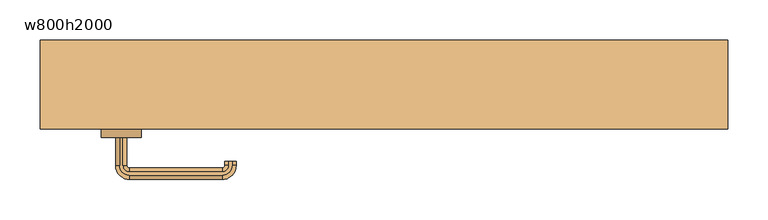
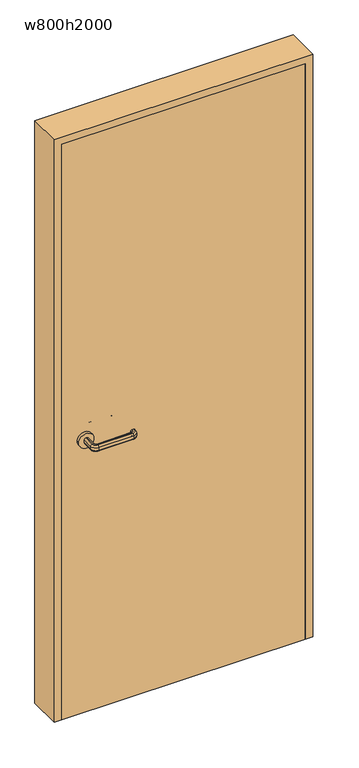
"""IFC4 building model written with IfcOpenShell, lengths in millimetres: door geometry, 片開き : w800h2000."""

from ifc_helpers import new_model, si_unit, point, frame, frame_2d, origin, origin_with_axes, place, context, project, spatial, polyline, circle_curve, ellipse_curve, trimmed, segment, composite_curve, outline, extrude, source, transform, mapped, element, save
from ifc_brep_helpers import plane_surface, cylinder_surface, revolved_surface, advanced_brep


def w800h2000_55112f04(model_context):
    return source(origin(), model_context, "Body", "SolidModel", [
        advanced_brep(
        [(-327.0, -65.0, 960.0), (-323.0, -65.0, 960.0), (-318.0, -65.0, 955.0), (-318.0, -65.0, 945.0477623), (-323.0, -65.0, 940.0477623), (-327.0, -65.0, 940.0477623), (-332.0, -65.0, 945.0477623), (-332.0, -65.0, 955.0), (-332.0, -100.0, 955.0), (-327.0, -100.0, 960.0), (-332.0, -100.0, 945.0477623), (-327.0, -100.0, 940.0477623), (-323.0, -100.0, 940.0477623), (-315.0, -108.0, 940.0477623), (-200.0, -108.0, 940.0477623), (-192.0, -100.0, 940.0477623), (-192.0, -95.0, 940.0477623), (-188.0, -95.0, 940.0477623), (-188.0, -100.0, 940.0477623), (-200.0, -112.0, 940.0477623), (-315.0, -112.0, 940.0477623), (-318.0, -100.0, 945.0477623), (-318.0, -100.0, 955.0), (-323.0, -100.0, 960.0), (-315.0, -112.0, 960.0), (-200.0, -112.0, 960.0), (-188.0, -100.0, 960.0), (-188.0, -95.0, 960.0), (-192.0, -95.0, 960.0), (-192.0, -100.0, 960.0), (-200.0, -108.0, 960.0), (-315.0, -108.0, 960.0), (-315.0, -117.0, 955.0), (-315.0, -117.0, 945.0477623), (-315.0, -103.0, 945.0477623), (-315.0, -103.0, 955.0), (-200.0, -117.0, 955.0), (-200.0, -117.0, 945.0477623), (-200.0, -103.0, 945.0477623), (-200.0, -103.0, 955.0), (-183.0, -100.0, 955.0), (-183.0, -100.0, 945.0477623), (-197.0, -100.0, 945.0477623), (-197.0, -100.0, 955.0), (-183.0, -95.0, 955.0), (-183.0, -95.0, 945.0477623), (-197.0, -95.0, 945.0477623), (-197.0, -95.0, 955.0)],
        [
            (0, 1),
            (1, 2, circle_curve(frame((-323.0, -65.0, 955.0), z_axis=(0.0, 1.0, 0.0), x_axis=(-1.0, 0.0, 0.0)), 5.0)),
            (2, 3),
            (3, 4, circle_curve(frame((-323.0, -65.0, 945.0477623), z_axis=(0.0, 1.0, 0.0), x_axis=(-1.0, 0.0, 0.0)), 5.0)),
            (4, 5),
            (5, 6, circle_curve(frame((-327.0, -65.0, 945.0477623), z_axis=(0.0, 1.0, 0.0), x_axis=(-1.0, 0.0, 0.0)), 5.0)),
            (6, 7),
            (7, 0, circle_curve(frame((-327.0, -65.0, 955.0), z_axis=(0.0, 1.0, 0.0), x_axis=(-1.0, 0.0, 0.0)), 5.0)),
            (7, 8),
            (8, 9, circle_curve(frame((-327.0, -100.0, 955.0), z_axis=(0.0, 1.0, 0.0), x_axis=(-1.0, 0.0, 0.0)), 5.0)),
            (9, 0),
            (6, 10),
            (10, 8),
            (5, 11),
            (11, 10, circle_curve(frame((-327.0, -100.0, 945.0477623), z_axis=(0.0, 1.0, 0.0), x_axis=(-1.0, 0.0, 0.0)), 5.0)),
            (4, 12),
            (12, 13, circle_curve(frame((-315.0, -100.0, 940.0477623), z_axis=(0.0, 0.0, 1.0), x_axis=(-1.0, 0.0, 0.0)), 8.0)),
            (13, 14),
            (14, 15, circle_curve(frame((-200.0, -100.0, 940.0477623), z_axis=(0.0, 0.0, 1.0), x_axis=(0.0, -1.0, 0.0)), 8.0)),
            (15, 16),
            (16, 17),
            (17, 18),
            (18, 19, circle_curve(frame((-200.0, -100.0, 940.0477623), z_axis=(0.0, 0.0, -1.0), x_axis=(0.0, -1.0, 0.0)), 12.0)),
            (19, 20),
            (20, 11, circle_curve(frame((-315.0, -100.0, 940.0477623), z_axis=(0.0, 0.0, -1.0), x_axis=(-1.0, 0.0, 0.0)), 12.0)),
            (3, 21),
            (21, 12, circle_curve(frame((-323.0, -100.0, 945.0477623), z_axis=(0.0, 1.0, 0.0), x_axis=(-1.0, 0.0, 0.0)), 5.0)),
            (2, 22),
            (22, 21),
            (1, 23),
            (23, 22, circle_curve(frame((-323.0, -100.0, 955.0), z_axis=(0.0, 1.0, 0.0), x_axis=(-1.0, 0.0, 0.0)), 5.0)),
            (9, 24, circle_curve(frame((-315.0, -100.0, 960.0), z_axis=(0.0, 0.0, 1.0), x_axis=(-1.0, 0.0, 0.0)), 12.0)),
            (24, 25),
            (25, 26, circle_curve(frame((-200.0, -100.0, 960.0), z_axis=(0.0, 0.0, 1.0), x_axis=(0.0, -1.0, 0.0)), 12.0)),
            (26, 27),
            (27, 28),
            (28, 29),
            (29, 30, circle_curve(frame((-200.0, -100.0, 960.0), z_axis=(0.0, 0.0, -1.0), x_axis=(0.0, -1.0, 0.0)), 8.0)),
            (30, 31),
            (31, 23, circle_curve(frame((-315.0, -100.0, 960.0), z_axis=(0.0, 0.0, -1.0), x_axis=(-1.0, 0.0, 0.0)), 8.0)),
            (32, 24, circle_curve(frame((-315.0, -112.0, 955.0), z_axis=(-1.0, 0.0, 0.0), x_axis=(0.0, -1.0, 0.0)), 5.0)),
            (8, 32, circle_curve(frame((-315.0, -100.0, 955.0), z_axis=(0.0, 0.0, 1.0), x_axis=(-1.0, 0.0, 0.0)), 17.0)),
            (33, 32),
            (10, 33, circle_curve(frame((-315.0, -100.0, 945.0477623), z_axis=(0.0, 0.0, 1.0), x_axis=(-1.0, 0.0, 0.0)), 17.0)),
            (20, 33, circle_curve(frame((-315.0, -112.0, 945.0477623), z_axis=(-1.0, 0.0, 0.0), x_axis=(0.0, -1.0, 0.0)), 5.0)),
            (34, 13, circle_curve(frame((-315.0, -108.0, 945.0477623), z_axis=(-1.0, 0.0, 0.0), x_axis=(0.0, -1.0, 0.0)), 5.0)),
            (21, 34, circle_curve(frame((-315.0, -100.0, 945.0477623), z_axis=(0.0, 0.0, 1.0), x_axis=(-1.0, 0.0, 0.0)), 3.0)),
            (35, 34),
            (22, 35, circle_curve(frame((-315.0, -100.0, 955.0), z_axis=(0.0, 0.0, 1.0), x_axis=(-1.0, 0.0, 0.0)), 3.0)),
            (31, 35, circle_curve(frame((-315.0, -108.0, 955.0), z_axis=(-1.0, 0.0, 0.0), x_axis=(0.0, -1.0, 0.0)), 5.0)),
            (32, 36),
            (36, 25, circle_curve(frame((-200.0, -112.0, 955.0), z_axis=(-1.0, 0.0, 0.0), x_axis=(0.0, -1.0, 0.0)), 5.0)),
            (33, 37),
            (37, 36),
            (19, 37, circle_curve(frame((-200.0, -112.0, 945.0477623), z_axis=(-1.0, 0.0, 0.0), x_axis=(0.0, -1.0, 0.0)), 5.0)),
            (34, 38),
            (38, 14, circle_curve(frame((-200.0, -108.0, 945.0477623), z_axis=(-1.0, 0.0, 0.0), x_axis=(0.0, -1.0, 0.0)), 5.0)),
            (35, 39),
            (39, 38),
            (30, 39, circle_curve(frame((-200.0, -108.0, 955.0), z_axis=(-1.0, 0.0, 0.0), x_axis=(0.0, -1.0, 0.0)), 5.0)),
            (40, 26, circle_curve(frame((-188.0, -100.0, 955.0), z_axis=(0.0, -1.0, 0.0), x_axis=(1.0, 0.0, 0.0)), 5.0)),
            (36, 40, circle_curve(frame((-200.0, -100.0, 955.0), z_axis=(0.0, 0.0, 1.0), x_axis=(0.0, -1.0, 0.0)), 17.0)),
            (41, 40),
            (37, 41, circle_curve(frame((-200.0, -100.0, 945.0477623), z_axis=(0.0, 0.0, 1.0), x_axis=(0.0, -1.0, 0.0)), 17.0)),
            (18, 41, circle_curve(frame((-188.0, -100.0, 945.0477623), z_axis=(0.0, -1.0, 0.0), x_axis=(1.0, 0.0, 0.0)), 5.0)),
            (42, 15, circle_curve(frame((-192.0, -100.0, 945.0477623), z_axis=(0.0, -1.0, 0.0), x_axis=(1.0, 0.0, 0.0)), 5.0)),
            (38, 42, circle_curve(frame((-200.0, -100.0, 945.0477623), z_axis=(0.0, 0.0, 1.0), x_axis=(0.0, -1.0, 0.0)), 3.0)),
            (43, 42),
            (39, 43, circle_curve(frame((-200.0, -100.0, 955.0), z_axis=(0.0, 0.0, 1.0), x_axis=(0.0, -1.0, 0.0)), 3.0)),
            (29, 43, circle_curve(frame((-192.0, -100.0, 955.0), z_axis=(0.0, -1.0, 0.0), x_axis=(1.0, 0.0, 0.0)), 5.0)),
            (27, 44, circle_curve(frame((-188.0, -95.0, 955.0), z_axis=(0.0, 1.0, 0.0), x_axis=(1.0, 0.0, 0.0)), 5.0)),
            (44, 45),
            (45, 17, circle_curve(frame((-188.0, -95.0, 945.0477623), z_axis=(0.0, 1.0, 0.0), x_axis=(1.0, 0.0, 0.0)), 5.0)),
            (16, 46, circle_curve(frame((-192.0, -95.0, 945.0477623), z_axis=(0.0, 1.0, 0.0), x_axis=(1.0, 0.0, 0.0)), 5.0)),
            (46, 47),
            (47, 28, circle_curve(frame((-192.0, -95.0, 955.0), z_axis=(0.0, 1.0, 0.0), x_axis=(1.0, 0.0, 0.0)), 5.0)),
            (40, 44),
            (41, 45),
            (42, 46),
            (43, 47),
        ],
        [
            plane_surface(frame((-335.198039, -65.0, 950.0), z_axis=(0.0, 1.0, 0.0), x_axis=(0.0, 0.0, 1.0))),
            cylinder_surface(frame((-327.0, -65.0, 955.0), z_axis=(0.0, 1.0, 0.0), x_axis=(-1.0, 0.0, 0.0)), 5.0),
            plane_surface(frame((-332.0, -65.0, 955.0), z_axis=(-1.0, 0.0, 0.0), x_axis=(0.0, -1.0, 0.0))),
            cylinder_surface(frame((-327.0, -65.0, 945.0477623), z_axis=(0.0, 1.0, 0.0), x_axis=(-1.0, 0.0, 0.0)), 5.0),
            plane_surface(frame((-327.0, -65.0, 940.0477623), z_axis=(0.0, 0.0, -1.0), x_axis=(0.0, -1.0, 0.0))),
            cylinder_surface(frame((-323.0, -65.0, 945.0477623), z_axis=(0.0, 1.0, 0.0), x_axis=(-1.0, 0.0, 0.0)), 5.0),
            plane_surface(frame((-318.0, -65.0, 945.0477623), z_axis=(1.0, 0.0, 0.0), x_axis=(0.0, -1.0, 0.0))),
            cylinder_surface(frame((-323.0, -65.0, 955.0), z_axis=(0.0, 1.0, 0.0), x_axis=(-1.0, 0.0, 0.0)), 5.0),
            plane_surface(frame((-323.0, -65.0, 960.0), z_axis=(0.0, 0.0, 1.0), x_axis=(0.0, -1.0, 0.0))),
            revolved_surface(trimmed(ellipse_curve(frame((-327.0, -100.0, 955.0), z_axis=(0.0, -1.0, 0.0), x_axis=(-1.0, 0.0, 0.0)), 5.0, 5.0), [point((-327.0, -100.0, 960.0))], [point((-332.0, -100.0, 955.0))], True, "CARTESIAN"), (-315.0, -100.0, 950.0), (0.0, 0.0, -1.0)),
            cylinder_surface(frame((-315.0, -100.0, 950.0), z_axis=(0.0, 0.0, -1.0), x_axis=(-1.0, 0.0, 0.0)), 17.0),
            revolved_surface(trimmed(ellipse_curve(frame((-327.0, -100.0, 945.0477623), z_axis=(0.0, -1.0, 0.0), x_axis=(-1.0, 0.0, 0.0)), 5.0, 5.0), [point((-332.0, -100.0, 945.0477623))], [point((-327.0, -100.0, 940.0477623))], True, "CARTESIAN"), (-315.0, -100.0, 950.0), (0.0, 0.0, -1.0)),
            revolved_surface(trimmed(ellipse_curve(frame((-323.0, -100.0, 945.0477623), z_axis=(0.0, -1.0, 0.0), x_axis=(-1.0, 0.0, 0.0)), 5.0, 5.0), [point((-323.0, -100.0, 940.0477623))], [point((-318.0, -100.0, 945.0477623))], True, "CARTESIAN"), (-315.0, -100.0, 950.0), (0.0, 0.0, -1.0)),
            revolved_surface(polyline([(-318.0, -100.0, 945.0477623), (-318.0, -100.0, 955.0)]), (-315.0, -100.0, 950.0), (0.0, 0.0, -1.0)),
            revolved_surface(trimmed(ellipse_curve(frame((-323.0, -100.0, 955.0), z_axis=(0.0, -1.0, 0.0), x_axis=(-1.0, 0.0, 0.0)), 5.0, 5.0), [point((-318.0, -100.0, 955.0))], [point((-323.0, -100.0, 960.0))], True, "CARTESIAN"), (-315.0, -100.0, 950.0), (0.0, 0.0, -1.0)),
            cylinder_surface(frame((-315.0, -112.0, 955.0), z_axis=(-1.0, 0.0, 0.0), x_axis=(0.0, -1.0, 0.0)), 5.0),
            plane_surface(frame((-315.0, -117.0, 955.0), z_axis=(0.0, -1.0, 0.0), x_axis=(1.0, 0.0, 0.0))),
            cylinder_surface(frame((-315.0, -112.0, 945.0477623), z_axis=(-1.0, 0.0, 0.0), x_axis=(0.0, -1.0, 0.0)), 5.0),
            cylinder_surface(frame((-315.0, -108.0, 945.0477623), z_axis=(-1.0, 0.0, 0.0), x_axis=(0.0, -1.0, 0.0)), 5.0),
            plane_surface(frame((-315.0, -103.0, 945.0477623), z_axis=(0.0, 1.0, 0.0), x_axis=(1.0, 0.0, 0.0))),
            cylinder_surface(frame((-315.0, -108.0, 955.0), z_axis=(-1.0, 0.0, 0.0), x_axis=(0.0, -1.0, 0.0)), 5.0),
            revolved_surface(trimmed(ellipse_curve(frame((-200.0, -112.0, 955.0), z_axis=(1.0, 0.0, 0.0), x_axis=(0.0, -1.0, 0.0)), 5.0, 5.0), [point((-200.0, -112.0, 960.0))], [point((-200.0, -117.0, 955.0))], True, "CARTESIAN"), (-200.0, -100.0, 950.0), (0.0, 0.0, -1.0)),
            cylinder_surface(frame((-200.0, -100.0, 950.0), z_axis=(0.0, 0.0, -1.0), x_axis=(0.0, -1.0, 0.0)), 17.0),
            revolved_surface(trimmed(ellipse_curve(frame((-200.0, -112.0, 945.0477623), z_axis=(1.0, 0.0, 0.0), x_axis=(0.0, -1.0, 0.0)), 5.0, 5.0), [point((-200.0, -117.0, 945.0477623))], [point((-200.0, -112.0, 940.0477623))], True, "CARTESIAN"), (-200.0, -100.0, 950.0), (0.0, 0.0, -1.0)),
            revolved_surface(trimmed(ellipse_curve(frame((-200.0, -108.0, 945.0477623), z_axis=(1.0, 0.0, 0.0), x_axis=(0.0, -1.0, 0.0)), 5.0, 5.0), [point((-200.0, -108.0, 940.0477623))], [point((-200.0, -103.0, 945.0477623))], True, "CARTESIAN"), (-200.0, -100.0, 950.0), (0.0, 0.0, -1.0)),
            revolved_surface(polyline([(-200.0, -103.0, 945.0477623), (-200.0, -103.0, 955.0)]), (-200.0, -100.0, 950.0), (0.0, 0.0, -1.0)),
            revolved_surface(trimmed(ellipse_curve(frame((-200.0, -108.0, 955.0), z_axis=(1.0, 0.0, 0.0), x_axis=(0.0, -1.0, 0.0)), 5.0, 5.0), [point((-200.0, -103.0, 955.0))], [point((-200.0, -108.0, 960.0))], True, "CARTESIAN"), (-200.0, -100.0, 950.0), (0.0, 0.0, -1.0)),
            plane_surface(frame((-200.198039, -95.0, 950.0), z_axis=(0.0, 1.0, 0.0), x_axis=(0.0, 0.0, -1.0))),
            cylinder_surface(frame((-188.0, -100.0, 955.0), z_axis=(0.0, -1.0, 0.0), x_axis=(1.0, 0.0, 0.0)), 5.0),
            plane_surface(frame((-183.0, -100.0, 955.0), z_axis=(1.0, 0.0, 0.0), x_axis=(0.0, 1.0, 0.0))),
            cylinder_surface(frame((-188.0, -100.0, 945.0477623), z_axis=(0.0, -1.0, 0.0), x_axis=(1.0, 0.0, 0.0)), 5.0),
            cylinder_surface(frame((-192.0, -100.0, 945.0477623), z_axis=(0.0, -1.0, 0.0), x_axis=(1.0, 0.0, 0.0)), 5.0),
            plane_surface(frame((-197.0, -100.0, 945.0477623), z_axis=(-1.0, 0.0, 0.0), x_axis=(0.0, 1.0, 0.0))),
            cylinder_surface(frame((-192.0, -100.0, 955.0), z_axis=(0.0, -1.0, 0.0), x_axis=(1.0, 0.0, 0.0)), 5.0),
        ],
        [
            (0, [[1, 2, 3, 4, 5, 6, 7, 8]]),
            (1, [[9, 10, 11, -8]]),
            (2, [[12, 13, -9, -7]]),
            (3, [[14, 15, -12, -6]]),
            (4, [[16, 17, 18, 19, 20, 21, 22, 23, 24, 25, -14, -5]]),
            (5, [[26, 27, -16, -4]]),
            (6, [[28, 29, -26, -3]]),
            (7, [[30, 31, -28, -2]]),
            (8, [[-11, 32, 33, 34, 35, 36, 37, 38, 39, 40, -30, -1]]),
            (9, [[41, -32, -10, 42]]),
            (10, [[43, -42, -13, 44]]),
            (11, [[45, -44, -15, -25]]),
            (12, [[46, -17, -27, 47]]),
            (13, [[48, -47, -29, 49]]),
            (14, [[50, -49, -31, -40]]),
            (15, [[51, 52, -33, -41]]),
            (16, [[53, 54, -51, -43]]),
            (17, [[-24, 55, -53, -45]]),
            (18, [[56, 57, -18, -46]]),
            (19, [[58, 59, -56, -48]]),
            (20, [[-39, 60, -58, -50]]),
            (21, [[61, -34, -52, 62]]),
            (22, [[63, -62, -54, 64]]),
            (23, [[65, -64, -55, -23]]),
            (24, [[66, -19, -57, 67]]),
            (25, [[68, -67, -59, 69]]),
            (26, [[70, -69, -60, -38]]),
            (27, [[71, 72, 73, -21, 74, 75, 76, -36]]),
            (28, [[77, -71, -35, -61]]),
            (29, [[78, -72, -77, -63]]),
            (30, [[-22, -73, -78, -65]]),
            (31, [[79, -74, -20, -66]]),
            (32, [[80, -75, -79, -68]]),
            (33, [[-37, -76, -80, -70]]),
        ],
    ),
        advanced_brep(
        [(-323.0, -20.0, 940.0), (-318.0, -20.0, 945.0), (-318.0, -20.0, 955.0), (-323.0, -20.0, 960.0), (-327.0, -20.0, 960.0), (-332.0, -20.0, 955.0), (-332.0, -20.0, 945.0), (-327.0, -20.0, 940.0), (-327.0, 15.0, 940.0), (-315.0, 27.0, 940.0), (-200.0, 27.0, 940.0), (-188.0, 15.0, 940.0), (-188.0, 10.0, 940.0), (-192.0, 10.0, 940.0), (-192.0, 15.0, 940.0), (-200.0, 23.0, 940.0), (-315.0, 23.0, 940.0), (-323.0, 15.0, 940.0), (-332.0, 15.0, 945.0), (-332.0, 15.0, 955.0), (-327.0, 15.0, 960.0), (-323.0, 15.0, 960.0), (-315.0, 23.0, 960.0), (-200.0, 23.0, 960.0), (-192.0, 15.0, 960.0), (-192.0, 10.0, 960.0), (-188.0, 10.0, 960.0), (-188.0, 15.0, 960.0), (-200.0, 27.0, 960.0), (-315.0, 27.0, 960.0), (-318.0, 15.0, 955.0), (-318.0, 15.0, 945.0), (-315.0, 32.0, 945.0), (-315.0, 32.0, 955.0), (-315.0, 18.0, 955.0), (-315.0, 18.0, 945.0), (-200.0, 32.0, 945.0), (-200.0, 32.0, 955.0), (-200.0, 18.0, 955.0), (-200.0, 18.0, 945.0), (-183.0, 15.0, 945.0), (-183.0, 15.0, 955.0), (-197.0, 15.0, 955.0), (-197.0, 15.0, 945.0), (-183.0, 10.0, 945.0), (-183.0, 10.0, 955.0), (-197.0, 10.0, 955.0), (-197.0, 10.0, 945.0)],
        [
            (0, 1, circle_curve(frame((-323.0, -20.0, 945.0), z_axis=(0.0, -1.0, 0.0), x_axis=(1.0, 0.0, 0.0)), 5.0)),
            (1, 2),
            (2, 3, circle_curve(frame((-323.0, -20.0, 955.0), z_axis=(0.0, -1.0, 0.0), x_axis=(1.0, 0.0, 0.0)), 5.0)),
            (3, 4),
            (4, 5, circle_curve(frame((-327.0, -20.0, 955.0), z_axis=(0.0, -1.0, 0.0), x_axis=(1.0, 0.0, 0.0)), 5.0)),
            (5, 6),
            (6, 7, circle_curve(frame((-327.0, -20.0, 945.0), z_axis=(0.0, -1.0, 0.0), x_axis=(1.0, 0.0, 0.0)), 5.0)),
            (7, 0),
            (7, 8),
            (8, 9, circle_curve(frame((-315.0, 15.0, 940.0), z_axis=(0.0, 0.0, -1.0), x_axis=(-1.0, 0.0, 0.0)), 12.0)),
            (9, 10),
            (10, 11, circle_curve(frame((-200.0, 15.0, 940.0), z_axis=(0.0, 0.0, -1.0), x_axis=(0.0, 1.0, 0.0)), 12.0)),
            (11, 12),
            (12, 13),
            (13, 14),
            (14, 15, circle_curve(frame((-200.0, 15.0, 940.0), z_axis=(0.0, 0.0, 1.0), x_axis=(0.0, 1.0, 0.0)), 8.0)),
            (15, 16),
            (16, 17, circle_curve(frame((-315.0, 15.0, 940.0), z_axis=(0.0, 0.0, 1.0), x_axis=(-1.0, 0.0, 0.0)), 8.0)),
            (17, 0),
            (6, 18),
            (18, 8, circle_curve(frame((-327.0, 15.0, 945.0), z_axis=(0.0, -1.0, 0.0), x_axis=(1.0, 0.0, 0.0)), 5.0)),
            (5, 19),
            (19, 18),
            (4, 20),
            (20, 19, circle_curve(frame((-327.0, 15.0, 955.0), z_axis=(0.0, -1.0, 0.0), x_axis=(1.0, 0.0, 0.0)), 5.0)),
            (3, 21),
            (21, 22, circle_curve(frame((-315.0, 15.0, 960.0), z_axis=(0.0, 0.0, -1.0), x_axis=(-1.0, 0.0, 0.0)), 8.0)),
            (22, 23),
            (23, 24, circle_curve(frame((-200.0, 15.0, 960.0), z_axis=(0.0, 0.0, -1.0), x_axis=(0.0, 1.0, 0.0)), 8.0)),
            (24, 25),
            (25, 26),
            (26, 27),
            (27, 28, circle_curve(frame((-200.0, 15.0, 960.0), z_axis=(0.0, 0.0, 1.0), x_axis=(0.0, 1.0, 0.0)), 12.0)),
            (28, 29),
            (29, 20, circle_curve(frame((-315.0, 15.0, 960.0), z_axis=(0.0, 0.0, 1.0), x_axis=(-1.0, 0.0, 0.0)), 12.0)),
            (2, 30),
            (30, 21, circle_curve(frame((-323.0, 15.0, 955.0), z_axis=(0.0, -1.0, 0.0), x_axis=(1.0, 0.0, 0.0)), 5.0)),
            (1, 31),
            (31, 30),
            (17, 31, circle_curve(frame((-323.0, 15.0, 945.0), z_axis=(0.0, -1.0, 0.0), x_axis=(1.0, 0.0, 0.0)), 5.0)),
            (32, 9, circle_curve(frame((-315.0, 27.0, 945.0), z_axis=(-1.0, 0.0, 0.0), x_axis=(0.0, -1.0, 0.0)), 5.0)),
            (18, 32, circle_curve(frame((-315.0, 15.0, 945.0), z_axis=(0.0, 0.0, -1.0), x_axis=(-1.0, 0.0, 0.0)), 17.0)),
            (33, 32),
            (19, 33, circle_curve(frame((-315.0, 15.0, 955.0), z_axis=(0.0, 0.0, -1.0), x_axis=(-1.0, 0.0, 0.0)), 17.0)),
            (29, 33, circle_curve(frame((-315.0, 27.0, 955.0), z_axis=(-1.0, 0.0, 0.0), x_axis=(0.0, -1.0, 0.0)), 5.0)),
            (34, 22, circle_curve(frame((-315.0, 23.0, 955.0), z_axis=(-1.0, 0.0, 0.0), x_axis=(0.0, -1.0, 0.0)), 5.0)),
            (30, 34, circle_curve(frame((-315.0, 15.0, 955.0), z_axis=(0.0, 0.0, -1.0), x_axis=(-1.0, 0.0, 0.0)), 3.0)),
            (35, 34),
            (31, 35, circle_curve(frame((-315.0, 15.0, 945.0), z_axis=(0.0, 0.0, -1.0), x_axis=(-1.0, 0.0, 0.0)), 3.0)),
            (16, 35, circle_curve(frame((-315.0, 23.0, 945.0), z_axis=(-1.0, 0.0, 0.0), x_axis=(0.0, -1.0, 0.0)), 5.0)),
            (32, 36),
            (36, 10, circle_curve(frame((-200.0, 27.0, 945.0), z_axis=(-1.0, 0.0, 0.0), x_axis=(0.0, -1.0, 0.0)), 5.0)),
            (33, 37),
            (37, 36),
            (28, 37, circle_curve(frame((-200.0, 27.0, 955.0), z_axis=(-1.0, 0.0, 0.0), x_axis=(0.0, -1.0, 0.0)), 5.0)),
            (34, 38),
            (38, 23, circle_curve(frame((-200.0, 23.0, 955.0), z_axis=(-1.0, 0.0, 0.0), x_axis=(0.0, -1.0, 0.0)), 5.0)),
            (35, 39),
            (39, 38),
            (15, 39, circle_curve(frame((-200.0, 23.0, 945.0), z_axis=(-1.0, 0.0, 0.0), x_axis=(0.0, -1.0, 0.0)), 5.0)),
            (40, 11, circle_curve(frame((-188.0, 15.0, 945.0), z_axis=(0.0, 1.0, 0.0), x_axis=(-1.0, 0.0, 0.0)), 5.0)),
            (36, 40, circle_curve(frame((-200.0, 15.0, 945.0), z_axis=(0.0, 0.0, -1.0), x_axis=(0.0, 1.0, 0.0)), 17.0)),
            (41, 40),
            (37, 41, circle_curve(frame((-200.0, 15.0, 955.0), z_axis=(0.0, 0.0, -1.0), x_axis=(0.0, 1.0, 0.0)), 17.0)),
            (27, 41, circle_curve(frame((-188.0, 15.0, 955.0), z_axis=(0.0, 1.0, 0.0), x_axis=(-1.0, 0.0, 0.0)), 5.0)),
            (42, 24, circle_curve(frame((-192.0, 15.0, 955.0), z_axis=(0.0, 1.0, 0.0), x_axis=(-1.0, 0.0, 0.0)), 5.0)),
            (38, 42, circle_curve(frame((-200.0, 15.0, 955.0), z_axis=(0.0, 0.0, -1.0), x_axis=(0.0, 1.0, 0.0)), 3.0)),
            (43, 42),
            (39, 43, circle_curve(frame((-200.0, 15.0, 945.0), z_axis=(0.0, 0.0, -1.0), x_axis=(0.0, 1.0, 0.0)), 3.0)),
            (14, 43, circle_curve(frame((-192.0, 15.0, 945.0), z_axis=(0.0, 1.0, 0.0), x_axis=(-1.0, 0.0, 0.0)), 5.0)),
            (12, 44, circle_curve(frame((-188.0, 10.0, 945.0), z_axis=(0.0, -1.0, 0.0), x_axis=(-1.0, 0.0, 0.0)), 5.0)),
            (44, 45),
            (45, 26, circle_curve(frame((-188.0, 10.0, 955.0), z_axis=(0.0, -1.0, 0.0), x_axis=(-1.0, 0.0, 0.0)), 5.0)),
            (25, 46, circle_curve(frame((-192.0, 10.0, 955.0), z_axis=(0.0, -1.0, 0.0), x_axis=(-1.0, 0.0, 0.0)), 5.0)),
            (46, 47),
            (47, 13, circle_curve(frame((-192.0, 10.0, 945.0), z_axis=(0.0, -1.0, 0.0), x_axis=(-1.0, 0.0, 0.0)), 5.0)),
            (40, 44),
            (41, 45),
            (42, 46),
            (43, 47),
        ],
        [
            plane_surface(frame((-335.198039, -20.0, 950.0), z_axis=(0.0, -1.0, 0.0), x_axis=(0.0, 0.0, -1.0))),
            plane_surface(frame((-323.0, -20.0, 940.0), z_axis=(0.0, 0.0, -1.0), x_axis=(0.0, 1.0, 0.0))),
            cylinder_surface(frame((-327.0, -20.0, 945.0), z_axis=(0.0, -1.0, 0.0), x_axis=(1.0, 0.0, 0.0)), 5.0),
            plane_surface(frame((-332.0, -20.0, 945.0), z_axis=(-1.0, 0.0, 0.0), x_axis=(0.0, 1.0, 0.0))),
            cylinder_surface(frame((-327.0, -20.0, 955.0), z_axis=(0.0, -1.0, 0.0), x_axis=(1.0, 0.0, 0.0)), 5.0),
            plane_surface(frame((-327.0, -20.0, 960.0), z_axis=(0.0, 0.0, 1.0), x_axis=(0.0, 1.0, 0.0))),
            cylinder_surface(frame((-323.0, -20.0, 955.0), z_axis=(0.0, -1.0, 0.0), x_axis=(1.0, 0.0, 0.0)), 5.0),
            plane_surface(frame((-318.0, -20.0, 955.0), z_axis=(1.0, 0.0, 0.0), x_axis=(0.0, 1.0, 0.0))),
            cylinder_surface(frame((-323.0, -20.0, 945.0), z_axis=(0.0, -1.0, 0.0), x_axis=(1.0, 0.0, 0.0)), 5.0),
            revolved_surface(trimmed(ellipse_curve(frame((-327.0, 15.0, 945.0), z_axis=(0.0, 1.0, 0.0), x_axis=(1.0, 0.0, 0.0)), 5.0, 5.0), [point((-327.0, 15.0, 940.0))], [point((-332.0, 15.0, 945.0))], True, "CARTESIAN"), (-315.0, 15.0, 950.0), (0.0, 0.0, 1.0)),
            cylinder_surface(frame((-315.0, 15.0, 950.0), z_axis=(0.0, 0.0, 1.0), x_axis=(-1.0, 0.0, 0.0)), 17.0),
            revolved_surface(trimmed(ellipse_curve(frame((-327.0, 15.0, 955.0), z_axis=(0.0, 1.0, 0.0), x_axis=(1.0, 0.0, 0.0)), 5.0, 5.0), [point((-332.0, 15.0, 955.0))], [point((-327.0, 15.0, 960.0))], True, "CARTESIAN"), (-315.0, 15.0, 950.0), (0.0, 0.0, 1.0)),
            revolved_surface(trimmed(ellipse_curve(frame((-323.0, 15.0, 955.0), z_axis=(0.0, 1.0, 0.0), x_axis=(1.0, 0.0, 0.0)), 5.0, 5.0), [point((-323.0, 15.0, 960.0))], [point((-318.0, 15.0, 955.0))], True, "CARTESIAN"), (-315.0, 15.0, 950.0), (0.0, 0.0, 1.0)),
            revolved_surface(polyline([(-318.0, 15.0, 955.0), (-318.0, 15.0, 945.0)]), (-315.0, 15.0, 950.0), (0.0, 0.0, 1.0)),
            revolved_surface(trimmed(ellipse_curve(frame((-323.0, 15.0, 945.0), z_axis=(0.0, 1.0, 0.0), x_axis=(1.0, 0.0, 0.0)), 5.0, 5.0), [point((-318.0, 15.0, 945.0))], [point((-323.0, 15.0, 940.0))], True, "CARTESIAN"), (-315.0, 15.0, 950.0), (0.0, 0.0, 1.0)),
            cylinder_surface(frame((-315.0, 27.0, 945.0), z_axis=(-1.0, 0.0, 0.0), x_axis=(0.0, -1.0, 0.0)), 5.0),
            plane_surface(frame((-315.0, 32.0, 945.0), z_axis=(0.0, 1.0, 0.0), x_axis=(1.0, 0.0, 0.0))),
            cylinder_surface(frame((-315.0, 27.0, 955.0), z_axis=(-1.0, 0.0, 0.0), x_axis=(0.0, -1.0, 0.0)), 5.0),
            cylinder_surface(frame((-315.0, 23.0, 955.0), z_axis=(-1.0, 0.0, 0.0), x_axis=(0.0, -1.0, 0.0)), 5.0),
            plane_surface(frame((-315.0, 18.0, 955.0), z_axis=(0.0, -1.0, 0.0), x_axis=(1.0, 0.0, 0.0))),
            cylinder_surface(frame((-315.0, 23.0, 945.0), z_axis=(-1.0, 0.0, 0.0), x_axis=(0.0, -1.0, 0.0)), 5.0),
            revolved_surface(trimmed(ellipse_curve(frame((-200.0, 27.0, 945.0), z_axis=(1.0, 0.0, 0.0), x_axis=(0.0, -1.0, 0.0)), 5.0, 5.0), [point((-200.0, 27.0, 940.0))], [point((-200.0, 32.0, 945.0))], True, "CARTESIAN"), (-200.0, 15.0, 950.0), (0.0, 0.0, 1.0)),
            cylinder_surface(frame((-200.0, 15.0, 950.0), z_axis=(0.0, 0.0, 1.0), x_axis=(0.0, 1.0, 0.0)), 17.0),
            revolved_surface(trimmed(ellipse_curve(frame((-200.0, 27.0, 955.0), z_axis=(1.0, 0.0, 0.0), x_axis=(0.0, -1.0, 0.0)), 5.0, 5.0), [point((-200.0, 32.0, 955.0))], [point((-200.0, 27.0, 960.0))], True, "CARTESIAN"), (-200.0, 15.0, 950.0), (0.0, 0.0, 1.0)),
            revolved_surface(trimmed(ellipse_curve(frame((-200.0, 23.0, 955.0), z_axis=(1.0, 0.0, 0.0), x_axis=(0.0, -1.0, 0.0)), 5.0, 5.0), [point((-200.0, 23.0, 960.0))], [point((-200.0, 18.0, 955.0))], True, "CARTESIAN"), (-200.0, 15.0, 950.0), (0.0, 0.0, 1.0)),
            revolved_surface(polyline([(-200.0, 18.0, 955.0), (-200.0, 18.0, 945.0)]), (-200.0, 15.0, 950.0), (0.0, 0.0, 1.0)),
            revolved_surface(trimmed(ellipse_curve(frame((-200.0, 23.0, 945.0), z_axis=(1.0, 0.0, 0.0), x_axis=(0.0, -1.0, 0.0)), 5.0, 5.0), [point((-200.0, 18.0, 945.0))], [point((-200.0, 23.0, 940.0))], True, "CARTESIAN"), (-200.0, 15.0, 950.0), (0.0, 0.0, 1.0)),
            plane_surface(frame((-200.198039, 10.0, 950.0), z_axis=(0.0, -1.0, 0.0), x_axis=(0.0, 0.0, 1.0))),
            cylinder_surface(frame((-188.0, 15.0, 945.0), z_axis=(0.0, 1.0, 0.0), x_axis=(-1.0, 0.0, 0.0)), 5.0),
            plane_surface(frame((-183.0, 15.0, 945.0), z_axis=(1.0, 0.0, 0.0), x_axis=(0.0, -1.0, 0.0))),
            cylinder_surface(frame((-188.0, 15.0, 955.0), z_axis=(0.0, 1.0, 0.0), x_axis=(-1.0, 0.0, 0.0)), 5.0),
            cylinder_surface(frame((-192.0, 15.0, 955.0), z_axis=(0.0, 1.0, 0.0), x_axis=(-1.0, 0.0, 0.0)), 5.0),
            plane_surface(frame((-197.0, 15.0, 955.0), z_axis=(-1.0, 0.0, 0.0), x_axis=(0.0, -1.0, 0.0))),
            cylinder_surface(frame((-192.0, 15.0, 945.0), z_axis=(0.0, 1.0, 0.0), x_axis=(-1.0, 0.0, 0.0)), 5.0),
        ],
        [
            (0, [[1, 2, 3, 4, 5, 6, 7, 8]]),
            (1, [[9, 10, 11, 12, 13, 14, 15, 16, 17, 18, 19, -8]]),
            (2, [[20, 21, -9, -7]]),
            (3, [[22, 23, -20, -6]]),
            (4, [[24, 25, -22, -5]]),
            (5, [[26, 27, 28, 29, 30, 31, 32, 33, 34, 35, -24, -4]]),
            (6, [[36, 37, -26, -3]]),
            (7, [[38, 39, -36, -2]]),
            (8, [[-19, 40, -38, -1]]),
            (9, [[41, -10, -21, 42]]),
            (10, [[43, -42, -23, 44]]),
            (11, [[45, -44, -25, -35]]),
            (12, [[46, -27, -37, 47]]),
            (13, [[48, -47, -39, 49]]),
            (14, [[50, -49, -40, -18]]),
            (15, [[51, 52, -11, -41]]),
            (16, [[53, 54, -51, -43]]),
            (17, [[-34, 55, -53, -45]]),
            (18, [[56, 57, -28, -46]]),
            (19, [[58, 59, -56, -48]]),
            (20, [[-17, 60, -58, -50]]),
            (21, [[61, -12, -52, 62]]),
            (22, [[63, -62, -54, 64]]),
            (23, [[65, -64, -55, -33]]),
            (24, [[66, -29, -57, 67]]),
            (25, [[68, -67, -59, 69]]),
            (26, [[70, -69, -60, -16]]),
            (27, [[-14, 71, 72, 73, -31, 74, 75, 76]]),
            (28, [[77, -71, -13, -61]]),
            (29, [[78, -72, -77, -63]]),
            (30, [[-32, -73, -78, -65]]),
            (31, [[79, -74, -30, -66]]),
            (32, [[80, -75, -79, -68]]),
            (33, [[-15, -76, -80, -70]]),
        ],
    ),
        extrude(outline(composite_curve([segment(trimmed(circle_curve(frame_2d((950.0, -325.0)), 25.0), [point((950.0, -350.0))], [point((950.0, -300.0))], False, "CARTESIAN"), True, "CONTINUOUS"), segment(trimmed(circle_curve(frame_2d((950.0, -325.0)), 25.0), [point((950.0, -300.0))], [point((950.0, -350.0))], False, "CARTESIAN"), True, "CONTINUOUS")], self_intersect=False)), frame((0.0, -65.0, 0.0), z_axis=(0.0, 1.0, 0.0), x_axis=(0.0, 0.0, 1.0)), (0.0, 0.0, 1.0), 10.0),
        extrude(outline(composite_curve([segment(trimmed(circle_curve(frame_2d((950.0, -325.0)), 25.0), [point((950.0, -350.0))], [point((950.0, -300.0))], False, "CARTESIAN"), True, "CONTINUOUS"), segment(trimmed(circle_curve(frame_2d((950.0, -325.0)), 25.0), [point((950.0, -300.0))], [point((950.0, -350.0))], False, "CARTESIAN"), True, "CONTINUOUS")], self_intersect=False)), frame((0.0, -30.0, 0.0), z_axis=(0.0, 1.0, 0.0), x_axis=(0.0, 0.0, 1.0)), (0.0, 0.0, 1.0), 10.0),
        extrude(outline(polyline([(400.0, -30.0), (400.0, -55.0), (-400.0, -55.0), (-400.0, -30.0), (400.0, -30.0)])), origin_with_axes(), (0.0, 0.0, 1.0), 2000.0),
        extrude(outline(polyline([(2025.0, -425.0), (0.0, -425.0), (0.0, -400.0), (2000.0, -400.0), (2000.0, 400.0), (0.0, 400.0), (0.0, 425.0), (2025.0, 425.0), (2025.0, -425.0)])), frame((0.0, -55.0, 0.0), z_axis=(0.0, 1.0, 0.0), x_axis=(0.0, 0.0, 1.0)), (0.0, 0.0, 1.0), 110.0),
    ])


if __name__ == "__main__":
    model = new_model("IFC4")
    model_context = context("Model", 3, world=origin())
    ifc_project = project(units=[si_unit("LENGTHUNIT", "METRE", prefix="MILLI")], contexts=[model_context])
    site = spatial("IfcSite", under=ifc_project)
    building = spatial("IfcBuilding", under=site)
    placement = place(None, origin())
    w800h2000_shape = w800h2000_55112f04(model_context)
    element("IfcDoor", 1, ObjectType="片開き : w800h2000", at=placement, inside=building, context=model_context, shape_type="MappedRepresentation", body=[
        mapped(w800h2000_shape, transform((0.0, 0.0, 0.0), x_axis=(1.0, 0.0, 0.0), y_axis=(0.0, 1.0, 0.0), z_axis=(0.0, 0.0, 1.0))),
    ])
    save(model, "model.ifc")
